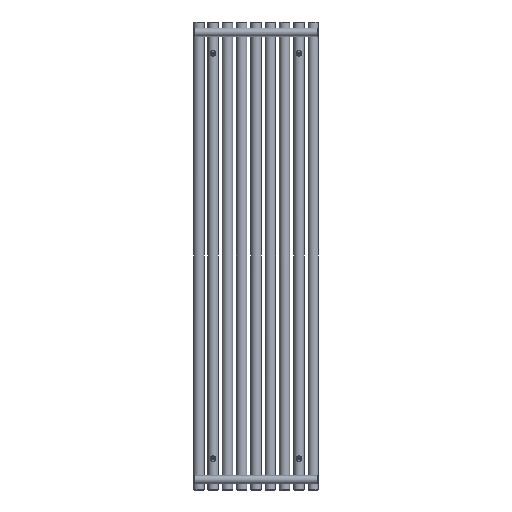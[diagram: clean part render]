
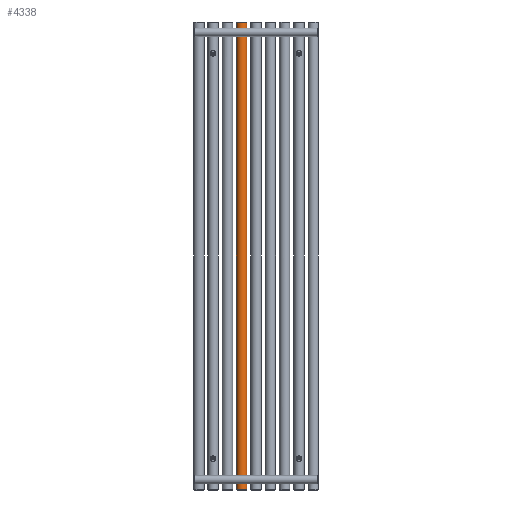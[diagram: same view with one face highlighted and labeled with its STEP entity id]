
A CAD part, front view. The second image highlights one B-rep face of the part: STEP entity #4338.
In plain terms, the highlighted cylindrical face has radius 20 mm (diameter 40 mm), a full revolution.
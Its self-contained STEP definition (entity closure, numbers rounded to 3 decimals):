
#267=FACE_BOUND('',#923,.T.);
#268=FACE_BOUND('',#924,.T.);
#269=FACE_BOUND('',#925,.T.);
#333=LINE('',#8078,#448);
#448=VECTOR('',#5398,20.);
#563=CYLINDRICAL_SURFACE('',#4669,20.);
#630=FACE_OUTER_BOUND('',#922,.T.);
#922=EDGE_LOOP('',(#2998,#2999,#3000,#3001,#3002));
#923=EDGE_LOOP('',(#3003));
#924=EDGE_LOOP('',(#3004));
#925=EDGE_LOOP('',(#3005));
#1268=B_SPLINE_CURVE_WITH_KNOTS('',3,(#8053,#8054,#8055,#8056,#8057,#8058,
#8059,#8060,#8061,#8062,#8063,#8064,#8065,#8066,#8067,#8068,#8069,#8070,
#8071,#8072),.UNSPECIFIED.,.T.,.F.,(4,1,1,1,1,1,1,1,1,1,1,1,1,1,1,1,1,4),
(-5.132,-4.765,-4.399,-3.91,
-3.788,-3.666,-3.421,-3.177,
-2.933,-2.444,-2.199,-1.955,
-1.711,-1.466,-1.1,-0.733,
-0.367,0.),.UNSPECIFIED.);
#1269=B_SPLINE_CURVE_WITH_KNOTS('',3,(#8082,#8083,#8084,#8085,#8086,#8087,
#8088,#8089,#8090,#8091,#8092,#8093,#8094,#8095,#8096,#8097,#8098,#8099,
#8100,#8101),.UNSPECIFIED.,.T.,.F.,(4,1,1,1,1,1,1,1,1,1,1,1,1,1,1,1,1,4),
(-5.132,-4.765,-4.399,-4.032,
-3.666,-3.421,-3.177,-2.933,
-2.688,-2.199,-1.955,-1.711,
-1.466,-1.222,-0.978,-0.733,
-0.367,0.),.UNSPECIFIED.);
#1270=B_SPLINE_CURVE_WITH_KNOTS('',3,(#8103,#8104,#8105,#8106,#8107,#8108,
#8109,#8110,#8111,#8112,#8113,#8114,#8115,#8116,#8117,#8118,#8119,#8120),
 .UNSPECIFIED.,.T.,.F.,(4,1,1,1,1,1,1,1,1,1,1,1,1,1,1,4),(-6.15,
-5.711,-5.272,-4.686,-4.393,
-3.807,-3.514,-3.222,-2.929,
-2.636,-2.05,-1.757,-1.318,
-0.879,-0.439,0.),.UNSPECIFIED.);
#1363=CIRCLE('',#4670,20.);
#1364=CIRCLE('',#4671,20.);
#1365=CIRCLE('',#4672,20.);
#1818=VERTEX_POINT('',#8051);
#1819=VERTEX_POINT('',#8074);
#1820=VERTEX_POINT('',#8075);
#1821=VERTEX_POINT('',#8077);
#1822=VERTEX_POINT('',#8081);
#1823=VERTEX_POINT('',#8102);
#2302=EDGE_CURVE('',#1818,#1818,#1268,.T.);
#2303=EDGE_CURVE('',#1819,#1820,#1363,.T.);
#2304=EDGE_CURVE('',#1819,#1821,#333,.T.);
#2305=EDGE_CURVE('',#1821,#1821,#1364,.T.);
#2306=EDGE_CURVE('',#1820,#1819,#1365,.T.);
#2307=EDGE_CURVE('',#1822,#1822,#1269,.T.);
#2308=EDGE_CURVE('',#1823,#1823,#1270,.T.);
#2998=ORIENTED_EDGE('',*,*,#2303,.F.);
#2999=ORIENTED_EDGE('',*,*,#2304,.T.);
#3000=ORIENTED_EDGE('',*,*,#2305,.F.);
#3001=ORIENTED_EDGE('',*,*,#2304,.F.);
#3002=ORIENTED_EDGE('',*,*,#2306,.F.);
#3003=ORIENTED_EDGE('',*,*,#2307,.F.);
#3004=ORIENTED_EDGE('',*,*,#2308,.F.);
#3005=ORIENTED_EDGE('',*,*,#2302,.F.);
#4338=ADVANCED_FACE('',(#630,#267,#268,#269),#563,.T.);
#4669=AXIS2_PLACEMENT_3D('',#8073,#5394,#5395);
#4670=AXIS2_PLACEMENT_3D('',#8076,#5396,#5397);
#4671=AXIS2_PLACEMENT_3D('',#8079,#5399,#5400);
#4672=AXIS2_PLACEMENT_3D('',#8080,#5401,#5402);
#5394=DIRECTION('center_axis',(0.,0.,1.));
#5395=DIRECTION('ref_axis',(-1.,0.,0.));
#5396=DIRECTION('center_axis',(0.,0.,1.));
#5397=DIRECTION('ref_axis',(-1.,0.,0.));
#5398=DIRECTION('',(0.,0.,-1.));
#5399=DIRECTION('center_axis',(0.,0.,-1.));
#5400=DIRECTION('ref_axis',(-1.,0.,0.));
#5401=DIRECTION('center_axis',(0.,0.,1.));
#5402=DIRECTION('ref_axis',(-1.,0.,0.));
#8051=CARTESIAN_POINT('',(-275.,-20.,50.1));
#8053=CARTESIAN_POINT('Ctrl Pts',(-275.,-20.,50.1));
#8054=CARTESIAN_POINT('Ctrl Pts',(-276.611,-20.,50.1));
#8055=CARTESIAN_POINT('Ctrl Pts',(-279.831,-19.609,49.581));
#8056=CARTESIAN_POINT('Ctrl Pts',(-284.316,-17.862,46.748));
#8057=CARTESIAN_POINT('Ctrl Pts',(-286.001,-16.692,42.52));
#8058=CARTESIAN_POINT('Ctrl Pts',(-285.992,-16.71,39.163));
#8059=CARTESIAN_POINT('Ctrl Pts',(-285.668,-16.918,36.969));
#8060=CARTESIAN_POINT('Ctrl Pts',(-284.648,-17.555,34.43));
#8061=CARTESIAN_POINT('Ctrl Pts',(-282.535,-18.589,32.082));
#8062=CARTESIAN_POINT('Ctrl Pts',(-278.836,-19.82,30.087));
#8063=CARTESIAN_POINT('Ctrl Pts',(-274.419,-20.202,29.641));
#8064=CARTESIAN_POINT('Ctrl Pts',(-270.239,-19.503,30.58));
#8065=CARTESIAN_POINT('Ctrl Pts',(-267.466,-18.591,32.084));
#8066=CARTESIAN_POINT('Ctrl Pts',(-265.351,-17.553,34.428));
#8067=CARTESIAN_POINT('Ctrl Pts',(-263.927,-16.66,37.981));
#8068=CARTESIAN_POINT('Ctrl Pts',(-263.921,-16.659,42.598));
#8069=CARTESIAN_POINT('Ctrl Pts',(-266.137,-18.052,47.027));
#8070=CARTESIAN_POINT('Ctrl Pts',(-270.165,-19.6,49.585));
#8071=CARTESIAN_POINT('Ctrl Pts',(-273.389,-20.,50.1));
#8072=CARTESIAN_POINT('Ctrl Pts',(-275.,-20.,50.1));
#8073=CARTESIAN_POINT('Origin',(-275.,0.,0.));
#8074=CARTESIAN_POINT('',(-255.,0.,1798.));
#8075=CARTESIAN_POINT('',(-295.,0.,1798.));
#8076=CARTESIAN_POINT('Origin',(-275.,0.,1798.));
#8077=CARTESIAN_POINT('',(-255.,0.,2.));
#8078=CARTESIAN_POINT('',(-255.,0.,0.));
#8079=CARTESIAN_POINT('Origin',(-275.,0.,2.));
#8080=CARTESIAN_POINT('Origin',(-275.,0.,1798.));
#8081=CARTESIAN_POINT('',(-275.,-20.,1770.1));
#8082=CARTESIAN_POINT('Ctrl Pts',(-275.,-20.,1770.1));
#8083=CARTESIAN_POINT('Ctrl Pts',(-276.611,-20.,1770.1));
#8084=CARTESIAN_POINT('Ctrl Pts',(-279.835,-19.6,1769.586));
#8085=CARTESIAN_POINT('Ctrl Pts',(-283.863,-18.052,1767.028));
#8086=CARTESIAN_POINT('Ctrl Pts',(-286.079,-16.659,1762.599));
#8087=CARTESIAN_POINT('Ctrl Pts',(-286.073,-16.66,1757.981));
#8088=CARTESIAN_POINT('Ctrl Pts',(-284.649,-17.552,1754.43));
#8089=CARTESIAN_POINT('Ctrl Pts',(-282.534,-18.59,1752.083));
#8090=CARTESIAN_POINT('Ctrl Pts',(-279.761,-19.502,1750.58));
#8091=CARTESIAN_POINT('Ctrl Pts',(-275.581,-20.202,1749.64));
#8092=CARTESIAN_POINT('Ctrl Pts',(-271.164,-19.82,1750.088));
#8093=CARTESIAN_POINT('Ctrl Pts',(-267.465,-18.589,1752.081));
#8094=CARTESIAN_POINT('Ctrl Pts',(-265.351,-17.555,1754.431));
#8095=CARTESIAN_POINT('Ctrl Pts',(-264.13,-16.793,1757.475));
#8096=CARTESIAN_POINT('Ctrl Pts',(-263.885,-16.626,1760.853));
#8097=CARTESIAN_POINT('Ctrl Pts',(-264.62,-17.113,1764.117));
#8098=CARTESIAN_POINT('Ctrl Pts',(-266.588,-18.224,1767.308));
#8099=CARTESIAN_POINT('Ctrl Pts',(-270.162,-19.597,1769.588));
#8100=CARTESIAN_POINT('Ctrl Pts',(-273.389,-20.,1770.1));
#8101=CARTESIAN_POINT('Ctrl Pts',(-275.,-20.,1770.1));
#8102=CARTESIAN_POINT('',(-285.476,17.037,1600.));
#8103=CARTESIAN_POINT('Ctrl Pts',(-285.476,17.037,1600.));
#8104=CARTESIAN_POINT('Ctrl Pts',(-285.476,17.037,1601.678));
#8105=CARTESIAN_POINT('Ctrl Pts',(-284.709,17.527,1605.001));
#8106=CARTESIAN_POINT('Ctrl Pts',(-281.466,19.122,1609.277));
#8107=CARTESIAN_POINT('Ctrl Pts',(-276.907,20.124,1611.232));
#8108=CARTESIAN_POINT('Ctrl Pts',(-271.486,19.897,1610.787));
#8109=CARTESIAN_POINT('Ctrl Pts',(-267.791,18.762,1608.482));
#8110=CARTESIAN_POINT('Ctrl Pts',(-265.449,17.593,1604.898));
#8111=CARTESIAN_POINT('Ctrl Pts',(-264.484,17.014,1601.706));
#8112=CARTESIAN_POINT('Ctrl Pts',(-264.486,17.014,1598.293));
#8113=CARTESIAN_POINT('Ctrl Pts',(-265.768,17.795,1594.04));
#8114=CARTESIAN_POINT('Ctrl Pts',(-268.647,19.134,1590.785));
#8115=CARTESIAN_POINT('Ctrl Pts',(-273.071,20.041,1588.91));
#8116=CARTESIAN_POINT('Ctrl Pts',(-277.48,20.043,1588.912));
#8117=CARTESIAN_POINT('Ctrl Pts',(-281.787,18.951,1591.157));
#8118=CARTESIAN_POINT('Ctrl Pts',(-284.716,17.533,1594.995));
#8119=CARTESIAN_POINT('Ctrl Pts',(-285.476,17.037,1598.322));
#8120=CARTESIAN_POINT('Ctrl Pts',(-285.476,17.037,1600.));
